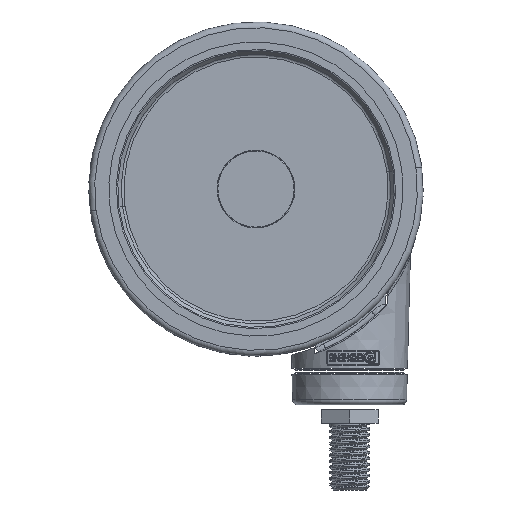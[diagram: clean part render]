
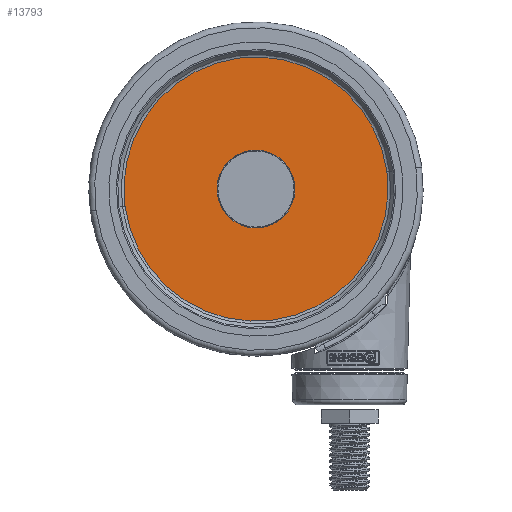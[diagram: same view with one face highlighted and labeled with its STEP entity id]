
A CAD part, front view. The second image highlights one B-rep face of the part: STEP entity #13793.
In plain terms, the highlighted planar face has unit normal (0, -1, 0).
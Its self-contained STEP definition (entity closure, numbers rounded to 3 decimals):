
#13567=CARTESIAN_POINT('',(0.,-28.25,0.));
#13568=DIRECTION('',(0.,1.,0.));
#13569=DIRECTION('',(-0.991,0.,-0.131));
#13570=AXIS2_PLACEMENT_3D('',#13567,#13568,#13569);
#13572=CARTESIAN_POINT('',(0.,-28.25,0.));
#13573=DIRECTION('',(0.,1.,0.));
#13574=DIRECTION('',(0.991,0.,0.131));
#13575=AXIS2_PLACEMENT_3D('',#13572,#13573,#13574);
#13577=CARTESIAN_POINT('',(0.,-28.25,0.));
#13578=DIRECTION('',(0.,1.,0.));
#13579=DIRECTION('',(-0.131,0.,0.991));
#13580=AXIS2_PLACEMENT_3D('',#13577,#13578,#13579);
#13582=CARTESIAN_POINT('',(0.,-28.25,0.));
#13583=DIRECTION('',(0.,1.,0.));
#13584=DIRECTION('',(0.131,0.,-0.991));
#13585=AXIS2_PLACEMENT_3D('',#13582,#13583,#13584);
#13744=CARTESIAN_POINT('',(-39.162,-28.25,-5.156));
#13745=CARTESIAN_POINT('',(39.162,-28.25,5.156));
#13746=VERTEX_POINT('',#13744);
#13747=VERTEX_POINT('',#13745);
#13752=CARTESIAN_POINT('',(-1.521,-28.25,11.55));
#13753=CARTESIAN_POINT('',(1.521,-28.25,-11.55));
#13754=VERTEX_POINT('',#13752);
#13755=VERTEX_POINT('',#13753);
#13776=CARTESIAN_POINT('',(0.,-28.25,0.));
#13777=DIRECTION('',(0.,1.,0.));
#13778=DIRECTION('',(0.991,0.,0.131));
#13779=AXIS2_PLACEMENT_3D('',#13776,#13777,#13778);
#13780=PLANE('',#13779);
#13782=ORIENTED_EDGE('',*,*,#13781,.T.);
#13784=ORIENTED_EDGE('',*,*,#13783,.T.);
#13785=EDGE_LOOP('',(#13782,#13784));
#13786=FACE_OUTER_BOUND('',#13785,.F.);
#13788=ORIENTED_EDGE('',*,*,#13787,.F.);
#13790=ORIENTED_EDGE('',*,*,#13789,.F.);
#13791=EDGE_LOOP('',(#13788,#13790));
#13792=FACE_BOUND('',#13791,.F.);
#13571=CIRCLE('',#13570,39.5);
#13576=CIRCLE('',#13575,39.5);
#13581=CIRCLE('',#13580,11.65);
#13586=CIRCLE('',#13585,11.65);
#13781=EDGE_CURVE('',#13746,#13747,#13571,.T.);
#13783=EDGE_CURVE('',#13747,#13746,#13576,.T.);
#13787=EDGE_CURVE('',#13754,#13755,#13581,.T.);
#13789=EDGE_CURVE('',#13755,#13754,#13586,.T.);
#13793=ADVANCED_FACE('',(#13786,#13792),#13780,.F.);
